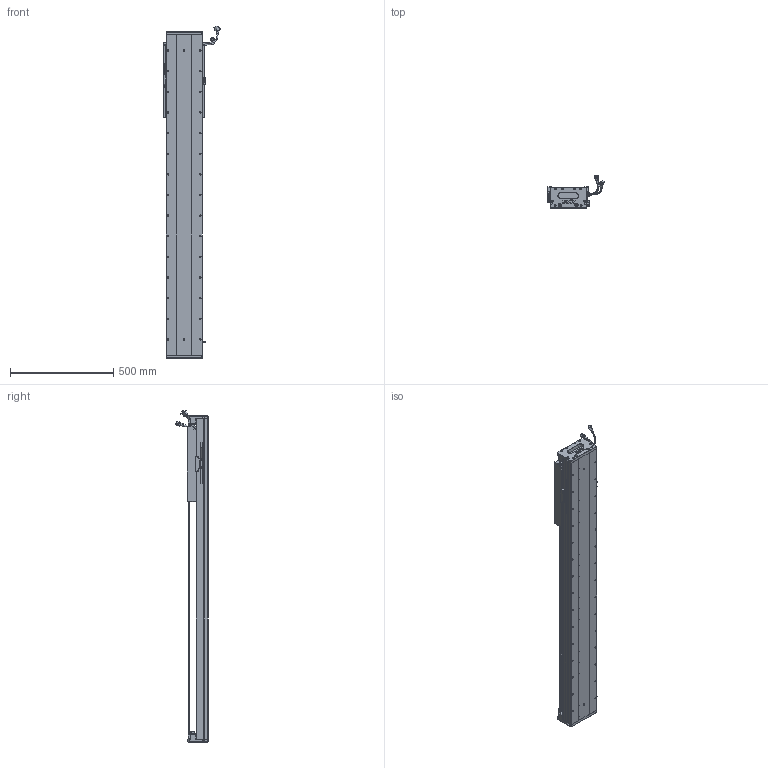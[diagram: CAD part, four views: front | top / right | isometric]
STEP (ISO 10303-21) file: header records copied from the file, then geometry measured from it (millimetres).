
FILE_DESCRIPTION (( 'STEP AP203' ), '1' );
FILE_NAME ('Z5-RY170D-1-L500-B-K.SLDASM_1100.step', '2021-05-18T00:40:08', ( '盈信电脑' ), ( '东莞市道滘镇水果街19号' ), 'SwSTEP 2.0', 'SolidWorks 2016', '' );
FILE_SCHEMA (( 'CONFIG_CONTROL_DESIGN' ));
Length unit declared in the file: millimetre
Products named in the file (36): 140雄赽晤鎢ん堤盄; Z5-RY170-L500詩湍145mm遵_1100; LABEL-Part-1; SCALE-Part-1; 080黍杅芛假蚾釱21遴; SCREW-M1.6; SCALE-Part-2; Z5-RY170-L500耀郪菁釱_1100; SEAL; SCREW-M1.6-1; HARNESS-Part-1; HOLDER0; SCALE; SCREW-M1.6-2; COVER; 140蚥薯蝶輸; Z-RY170詩湍狟揤裔; SCREW-M1.7; Z-170詩湍傷裔啣; HARNESS-Part-2; Z-RY170詩湍奻揤裔; 170-Z-臏賑輸盄裔(21遴); PBU_SHEET; SHIELDPLATE; 覜茼ん672; 榋妏寠巭燃_暯_M2_2; PSLH080_PSLF2; SEAL-Part-1; COVER-Part-1; Z5-RY170臏賑輸(21遴); SCREW-M1.6-3; LABEL; SCREW-M1.7-1; RY170直线电机感应器672光电感应片; Z5-RY170D-1-L500-B-K.SLDASM_1100; HARNESS
Assembly tree (41 placements, depth 4):
  Z5-RY170D-1-L500-B-K.SLDASM_1100
    Z5-RY170-L500耀郪菁釱_1100
    RY170直线电机感应器672光电感应片
    Z5-RY170臏賑輸(21遴)
    覜茼ん672  x3
    PSLH080_PSLF2
      SCALE
        SCALE-Part-1
        SCALE-Part-2
      HARNESS
        HARNESS-Part-1
        HARNESS-Part-2
      LABEL
        LABEL-Part-1
      COVER
        COVER-Part-1
      SEAL
        SEAL-Part-1
      榋妏寠巭燃_暯_M2_2
      SHIELDPLATE
      SCREW-M1.7
      SCREW-M1.7-1
      PBU_SHEET
      SCREW-M1.6
      SCREW-M1.6-1
      SCREW-M1.6-2
      SCREW-M1.6-3
      HOLDER0
    080黍杅芛假蚾釱21遴
    Z5-RY170-L500詩湍145mm遵_1100
    Z-170詩湍傷裔啣  x2
    Z-RY170詩湍奻揤裔  x2
    Z-RY170詩湍狟揤裔  x2
    140蚥薯蝶輸  x2
    170-Z-臏賑輸盄裔(21遴)
    140雄赽晤鎢ん堤盄
Bounding box: 275.33 x 158.11 x 1608.72 mm (x, y, z)
Volume: 9209196 mm3; surface area: 2176324.4 mm2
Topology: 36 solids, 36 shells, 3470 faces, 9391 edges, 5889 vertices
Faces by surface type: cylinder 1658, plane 1230, cone 460, torus 69, bspline 53
Entity records: 104527 total; most frequent: CARTESIAN_POINT 27292, ORIENTED_EDGE 15482, DIRECTION 15049, EDGE_CURVE 7741, AXIS2_PLACEMENT_3D 5552, VERTEX_POINT 5007, LINE 3945, VECTOR 3945
